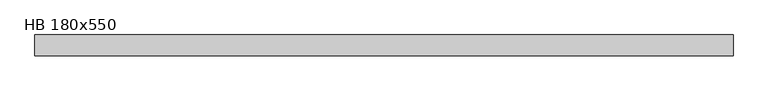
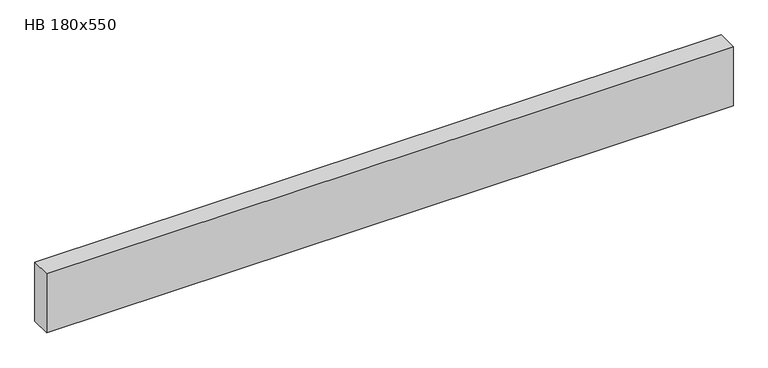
"""IFC4 building model written with IfcOpenShell, lengths in millimetres: beam geometry, NLRS_28_SF_LIB_balk hout gelamineerd_generiek_ISR : HB 180x550."""

from ifc_helpers import new_model, si_unit, frame, origin, place, context, project, spatial, polyline, outline, extrude, source, transform, mapped, element, save


def hb_180x550_727a1a51(model_context):
    return source(origin(), model_context, "Body", "SweptSolid", [
        extrude(outline(polyline([(3021.0814041, 90.0), (3021.0814041, -90.0), (-3027.8059811, -90.0), (-3027.8059811, 90.0), (3021.0814041, 90.0)])), frame((0.0, 0.0, -275.0), z_axis=(0.0, 0.0, 1.0), x_axis=(1.0, 0.0, 0.0)), (0.0, 0.0, 1.0), 550.0),
    ])


if __name__ == "__main__":
    model = new_model("IFC4")
    model_context = context("Model", 3, world=origin())
    ifc_project = project(units=[si_unit("LENGTHUNIT", "METRE", prefix="MILLI")], contexts=[model_context])
    site = spatial("IfcSite", under=ifc_project)
    building = spatial("IfcBuilding", under=site)
    placement = place(None, origin())
    hb_180x550_shape = hb_180x550_727a1a51(model_context)
    element("IfcBeam", 1, ObjectType="NLRS_28_SF_LIB_balk hout gelamineerd_generiek_ISR : HB 180x550", at=placement, inside=building, context=model_context, shape_type="MappedRepresentation", body=[
        mapped(hb_180x550_shape, transform((0.0, 0.0, 0.0), x_axis=(1.0, 0.0, 0.0), y_axis=(0.0, 1.0, 0.0), z_axis=(0.0, 0.0, 1.0))),
    ])
    save(model, "model.ifc")
